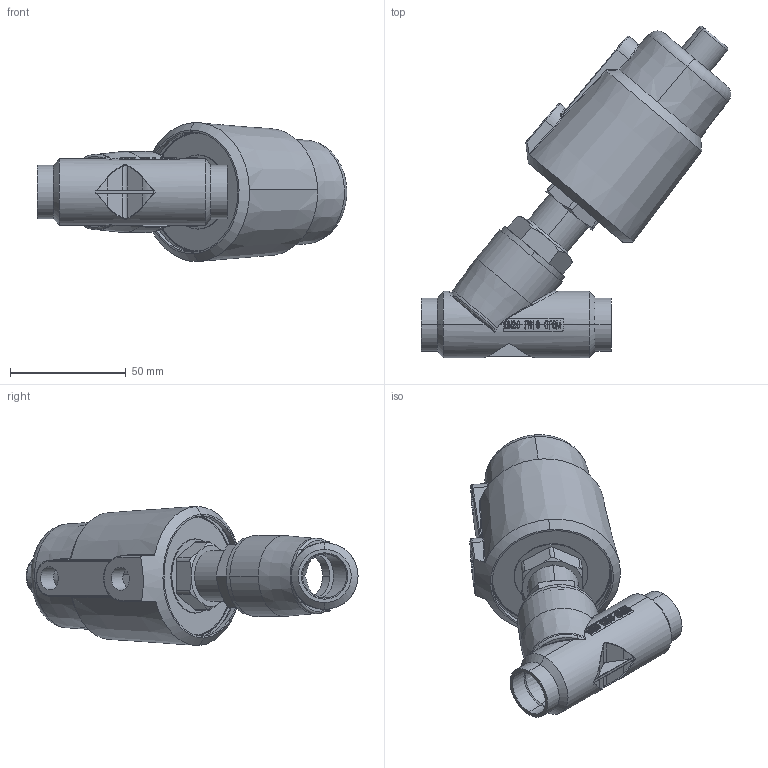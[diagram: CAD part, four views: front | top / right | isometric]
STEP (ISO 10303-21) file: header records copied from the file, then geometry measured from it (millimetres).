
FILE_DESCRIPTION (( 'STEP AP203' ), '1' );
FILE_NAME ('毀砃5020 Thread_1爾諉.STEP', '2019-07-20T09:00:26', ( 'User' ), ( 'china' ), 'SwSTEP 2.0', 'SolidWorks 2017', '' );
FILE_SCHEMA (( 'CONFIG_CONTROL_DESIGN' ));
Length unit declared in the file: millimetre
Products named in the file (11): 5020蟈諉; 50傷裔; 50詰芠; 弝敦; EJF502001H20概极; 毀砃5020 Thread_1爾諉
Assembly tree (5 placements, depth 2):
  5020蟈諉
  50傷裔
  50詰芠
  弝敦
  EJF502001H20概极
Bounding box: 133.64 x 143.34 x 60.01 mm (x, y, z)
Volume: 112375.3 mm3; surface area: 66267.2 mm2
Topology: 5 solids, 5 shells, 619 faces, 1658 edges, 1071 vertices
Faces by surface type: bspline 255, cylinder 169, plane 121, cone 52, torus 21, sphere 1
Entity records: 41157 total; most frequent: CARTESIAN_POINT 27096, ORIENTED_EDGE 3302, DIRECTION 1835, EDGE_CURVE 1651, VERTEX_POINT 1071, B_SPLINE_CURVE_WITH_KNOTS 895, AXIS2_PLACEMENT_3D 753, EDGE_LOOP 662
